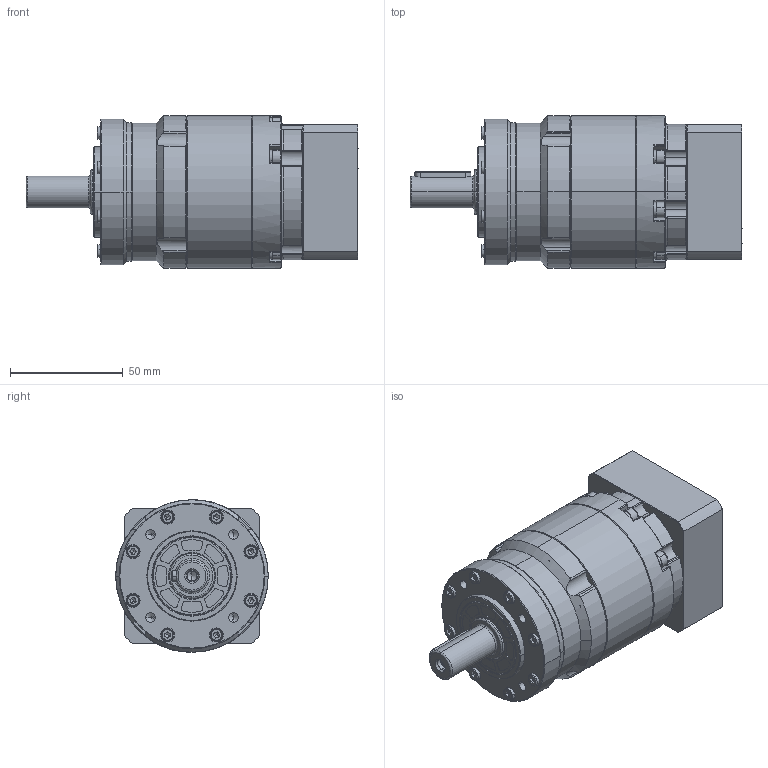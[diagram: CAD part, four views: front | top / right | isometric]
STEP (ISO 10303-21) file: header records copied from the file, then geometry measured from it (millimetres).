
FILE_DESCRIPTION (( 'STEP AP214' ), '1' );
FILE_NAME ('FE060-L2-S2-P2 14-50-70-M5.STEP', '2023-09-20T03:40:56', ( '微软用户' ), ( '微软中国' ), 'SwSTEP 2.0', 'SolidWorks 2018', '' );
FILE_SCHEMA (( 'AUTOMOTIVE_DESIGN' ));
Length unit declared in the file: millimetre
Products named in the file (17): spring lock washers--normal type gb_GB_FASTENER_WASHER_SW 3; FE060圆输出端盖外形图; hex socket set screws with flat point gb_GB_FASTENER_SCREWS_HSFP M10X8-N; 標杶FE060D17; 笢潔楊擘 FE060俋倛芞; 输入太阳轮FE060D14外形图; plain parallel keys_GB_CONNECTING_PIECE_KEYS_CSK 5X25; hexagon socket head cap screws gb_GB_FASTENER_SCREWS_HSHCS M3X16-N; 一级输出轴FE060外形图; FE060一级齿圈外形图; FE060二级齿圈外形图; 蚐猾20X35X5; spring lock washers--normal type gb_GB_FASTENER_WASHER_SW 4; hexagon socket head cap screws gb_GB_FASTENER_SCREWS_HSHCS M4X20-N; FE060-L2-S2-P2 14-50-70-M5; hexagon socket head cap screws gb_GB_FASTENER_SCREWS_HSHCS M5X16-N; 萇儂楊擘FE060-D50-M5-70F60H24.5
Assembly tree (52 placements, depth 2):
  FE060-L2-S2-P2 14-50-70-M5
    FE060一级齿圈外形图
    一级输出轴FE060外形图
    输入太阳轮FE060D14外形图
    萇儂楊擘FE060-D50-M5-70F60H24.5
    標杶FE060D17
    hexagon socket head cap screws gb_GB_FASTENER_SCREWS_HSHCS M5X16-N
    hexagon socket head cap screws gb_GB_FASTENER_SCREWS_HSHCS M4X20-N  x12
    spring lock washers--normal type gb_GB_FASTENER_WASHER_SW 4  x12
    hex socket set screws with flat point gb_GB_FASTENER_SCREWS_HSFP M10X8-N
    蚐猾20X35X5
    plain parallel keys_GB_CONNECTING_PIECE_KEYS_CSK 5X25
    hexagon socket head cap screws gb_GB_FASTENER_SCREWS_HSHCS M3X16-N  x8
    spring lock washers--normal type gb_GB_FASTENER_WASHER_SW 3  x8
    FE060圆输出端盖外形图
    FE060二级齿圈外形图
    笢潔楊擘 FE060俋倛芞
Bounding box: 147 x 67.5 x 67.5 mm (x, y, z)
Volume: 337085.1 mm3; surface area: 94093.5 mm2
Topology: 52 solids, 52 shells, 1490 faces, 3649 edges, 2263 vertices
Faces by surface type: cylinder 565, plane 561, cone 272, bspline 92
Entity records: 37911 total; most frequent: CARTESIAN_POINT 6744, DIRECTION 4641, ORIENTED_EDGE 4242, EDGE_CURVE 2121, AXIS2_PLACEMENT_3D 1879, VERTEX_POINT 1359, CIRCLE 1020, EDGE_LOOP 990
